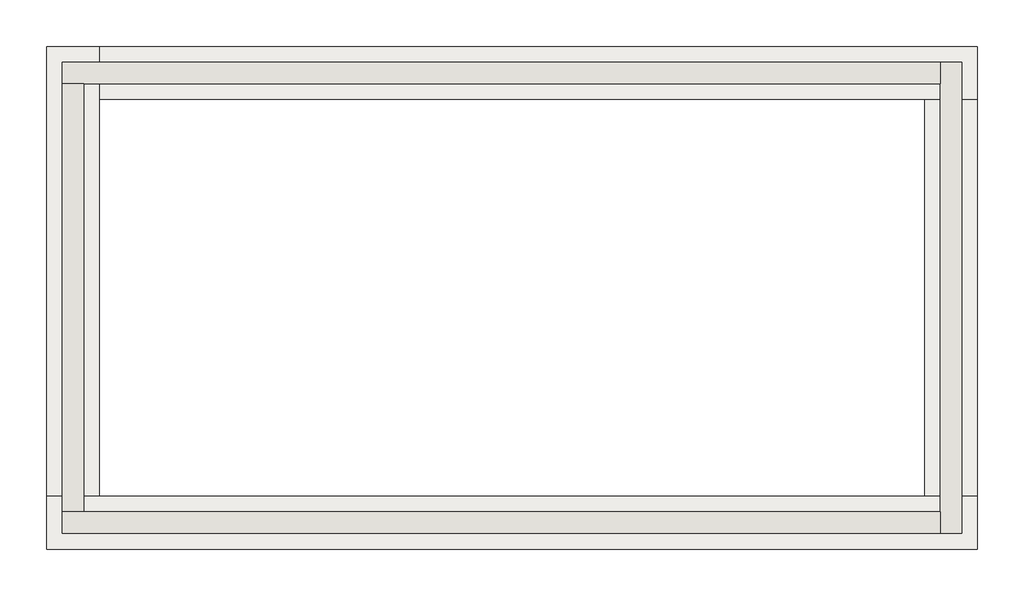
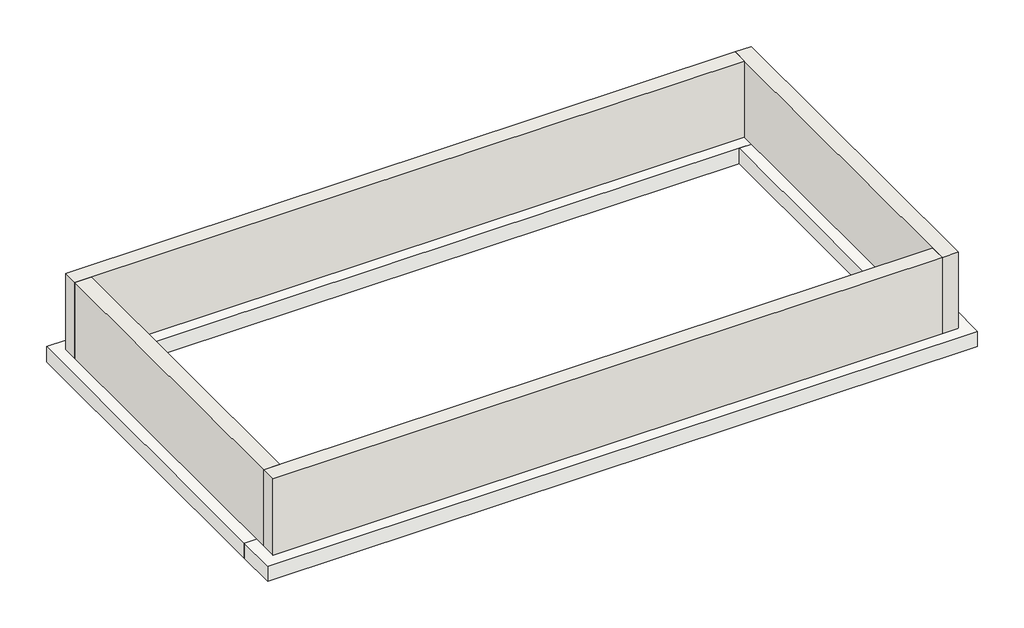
# One storey: 4 footings, 4 walls.
"""IFC4 building model written with IfcOpenShell, lengths in millimetres."""

from ifc_helpers import new_model, si_unit, frame, origin, place, context, project, spatial, polyline, outline, extrude, faceted_brep, element, save

model = new_model("IFC4")

# Units and contexts
model_context = context("Model", 3, world=origin())
ifc_project = project(units=[si_unit("LENGTHUNIT", "METRE", prefix="MILLI")], contexts=[model_context])

# Site, building, storey
site = spatial("IfcSite", under=ifc_project)
building = spatial("IfcBuilding", under=site)
storey = spatial("IfcBuildingStorey", under=building, Name="Soubassement", Elevation=-1000.0)

# Footings
placement = place(None, origin())
element("IfcFooting", 1, ObjectType="Soubassement de soutènement - 300 x 600 x 300", at=placement, inside=storey, context=model_context, shape_type="Brep", body=[
    faceted_brep([(2947.9561003, 2138.2951017, -1000.0), (2447.9561003, 2138.2951017, -1000.0), (-5352.0438997, 2138.2951017, -1000.0), (-5852.0438997, 2138.2951017, -1000.0), (-5852.0438997, 1638.2951017, -1000.0), (2947.9561003, 1638.2951017, -1000.0), (2947.9561003, 1638.2951017, -1200.0), (-5852.0438997, 1638.2951017, -1200.0), (2947.9561003, 2138.2951017, -1200.0), (-5852.0438997, 2138.2951017, -1200.0), (-5352.0438997, 2138.2951017, -1200.0), (2447.9561003, 2138.2951017, -1200.0)], [[[0, 1, 2, 3, 4, 5]], [[6, 5, 4, 7]], [[8, 6, 7, 9, 10, 11]], [[0, 8, 11, 10, 9, 3, 2, 1]], [[4, 3, 9, 7]], [[0, 5, 6, 8]]]),
])
element("IfcFooting", 2, ObjectType="Soubassement de soutènement - 300 x 600 x 300", at=placement, inside=storey, context=model_context, shape_type="Brep", body=[
    faceted_brep([(-5352.0438997, 6388.2951017, -1000.0), (-5852.0438997, 6388.2951017, -1000.0), (-5852.0438997, 2138.2951017, -1000.0), (-5352.0438997, 2138.2951017, -1000.0), (-5352.0438997, 5888.2951017, -1000.0), (-5852.0438997, 6388.2951017, -1200.0), (-5852.0438997, 2138.2951017, -1200.0), (-5352.0438997, 6388.2951017, -1200.0), (-5352.0438997, 5888.2951017, -1200.0), (-5352.0438997, 2138.2951017, -1200.0)], [[[0, 1, 2, 3, 4]], [[1, 5, 6, 2]], [[5, 7, 8, 9, 6]], [[7, 0, 4, 3, 9, 8]], [[3, 2, 6, 9]], [[1, 0, 7, 5]]]),
])
element("IfcFooting", 3, ObjectType="Soubassement de soutènement - 300 x 600 x 300", at=placement, inside=storey, context=model_context, shape_type="Brep", body=[
    faceted_brep([(2947.9561003, 5888.2951017, -1000.0), (2947.9561003, 6388.2951017, -1000.0), (-5352.0438997, 6388.2951017, -1000.0), (-5352.0438997, 5888.2951017, -1000.0), (2447.9561003, 5888.2951017, -1000.0), (2947.9561003, 6388.2951017, -1200.0), (-5352.0438997, 6388.2951017, -1200.0), (2947.9561003, 5888.2951017, -1200.0), (2447.9561003, 5888.2951017, -1200.0), (-5352.0438997, 5888.2951017, -1200.0)], [[[0, 1, 2, 3, 4]], [[1, 5, 6, 2]], [[5, 7, 8, 9, 6]], [[7, 0, 4, 3, 9, 8]], [[3, 2, 6, 9]], [[1, 0, 7, 5]]]),
])
element("IfcFooting", 4, ObjectType="Soubassement de soutènement - 300 x 600 x 300", at=placement, inside=storey, context=model_context, shape_type="SweptSolid", body=[
    extrude(outline(polyline([(2947.9561003, 2138.2951017), (2447.9561003, 2138.2951017), (2447.9561003, 5888.2951017), (2947.9561003, 5888.2951017), (2947.9561003, 2138.2951017)])), frame((0.0, 0.0, -1200.0), z_axis=(0.0, 0.0, 1.0), x_axis=(1.0, 0.0, 0.0)), (0.0, 0.0, 1.0), 200.0),
])

# Walls
element("IfcWall", 5, ObjectType="Générique - 200 mm", at=placement, inside=storey, context=model_context, shape_type="Brep", body=[
    faceted_brep([(2597.9561003, 6238.2951017, -1000.0), (2597.9561003, 6038.2951017, -1000.0), (2597.9561003, 1988.2951017, -1000.0), (2597.9561003, 1788.2951017, -1000.0), (2597.9561003, 1788.2951017, 0.0), (2597.9561003, 1988.2951017, 0.0), (2597.9561003, 6038.2951017, 0.0), (2597.9561003, 6238.2951017, 0.0), (2797.9561003, 6238.2951017, -1000.0), (2797.9561003, 6238.2951017, 0.0), (2797.9561003, 1788.2951017, 0.0), (2797.9561003, 1788.2951017, -1000.0)], [[[0, 1, 2, 3, 4, 5, 6, 7]], [[8, 9, 10, 11]], [[3, 2, 1, 0, 8, 11]], [[7, 6, 5, 4, 10, 9]], [[0, 7, 9, 8]], [[4, 3, 11, 10]]]),
])
element("IfcWall", 6, ObjectType="Générique - 200 mm", at=placement, inside=storey, context=model_context, shape_type="Brep", body=[
    faceted_brep([(-5702.0438997, 6038.2951017, -1000.0), (-5502.0438997, 6038.2951017, -1000.0), (2597.9561003, 6038.2951017, -1000.0), (2597.9561003, 6038.2951017, 0.0), (-5502.0438997, 6038.2951017, 0.0), (-5702.0438997, 6038.2951017, 0.0), (-5702.0438997, 6238.2951017, -1000.0), (-5702.0438997, 6238.2951017, 0.0), (2597.9561003, 6238.2951017, 0.0), (2597.9561003, 6238.2951017, -1000.0)], [[[0, 1, 2, 3, 4, 5]], [[6, 7, 8, 9]], [[2, 1, 0, 6, 9]], [[5, 4, 3, 8, 7]], [[3, 2, 9, 8]], [[0, 5, 7, 6]]]),
])
element("IfcWall", 7, ObjectType="Générique - 200 mm", at=placement, inside=storey, context=model_context, shape_type="Brep", body=[
    faceted_brep([(2597.9561003, 1988.2951017, -1000.0), (-5502.0438997, 1988.2951017, -1000.0), (-5702.0438997, 1988.2951017, -1000.0), (-5702.0438997, 1988.2951017, 0.0), (-5502.0438997, 1988.2951017, 0.0), (2597.9561003, 1988.2951017, 0.0), (2597.9561003, 1788.2951017, -1000.0), (2597.9561003, 1788.2951017, 0.0), (-5702.0438997, 1788.2951017, 0.0), (-5702.0438997, 1788.2951017, -1000.0)], [[[0, 1, 2, 3, 4, 5]], [[6, 7, 8, 9]], [[2, 1, 0, 6, 9]], [[5, 4, 3, 8, 7]], [[0, 5, 7, 6]], [[3, 2, 9, 8]]]),
])
element("IfcWall", 8, ObjectType="Générique - 200 mm", at=placement, inside=storey, context=model_context, shape_type="SweptSolid", body=[
    extrude(outline(polyline([(-5502.0438997, 6038.2951017), (-5502.0438997, 1988.2951017), (-5702.0438997, 1988.2951017), (-5702.0438997, 6038.2951017), (-5502.0438997, 6038.2951017)])), frame((0.0, 0.0, -1000.0), z_axis=(0.0, 0.0, 1.0), x_axis=(1.0, 0.0, 0.0)), (0.0, 0.0, 1.0), 1000.0),
])

save(model, "model.ifc")
